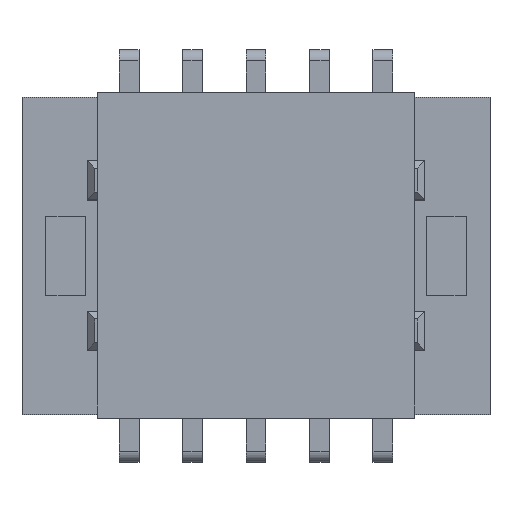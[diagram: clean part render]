
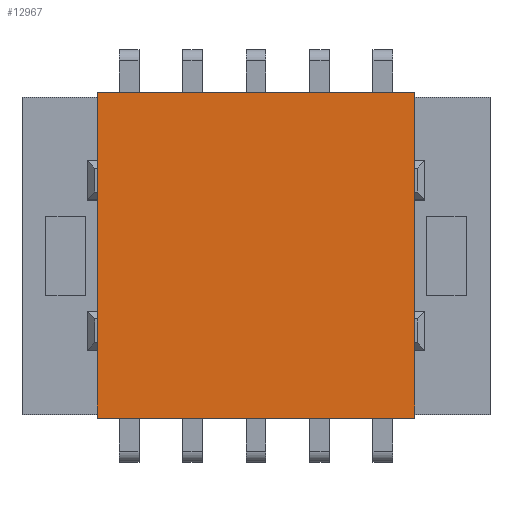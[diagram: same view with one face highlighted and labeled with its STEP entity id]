
A CAD part, top view. The second image highlights one B-rep face of the part: STEP entity #12967.
In plain terms, the highlighted planar face has unit normal (0, 0, 1).
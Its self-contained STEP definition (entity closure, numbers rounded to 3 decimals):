
#1437 = DIRECTION ( 'NONE',  ( 0., -1., 0. ) ) ;
#1597 = VERTEX_POINT ( 'NONE', #12555 ) ;
#3464 = VERTEX_POINT ( 'NONE', #18890 ) ;
#4167 = EDGE_CURVE ( 'NONE', #14257, #3464, #14919, .T. ) ;
#5885 = ORIENTED_EDGE ( 'NONE', *, *, #15903, .F. ) ;
#6460 = PLANE ( 'NONE',  #15563 ) ;
#6528 = VECTOR ( 'NONE', #1437, 1000. ) ;
#7211 = VECTOR ( 'NONE', #18937, 1000. ) ;
#7959 = CARTESIAN_POINT ( 'NONE',  ( 0., 0., 4.35 ) ) ;
#9358 = ORIENTED_EDGE ( 'NONE', *, *, #4167, .F. ) ;
#9821 = ORIENTED_EDGE ( 'NONE', *, *, #18708, .T. ) ;
#10476 = CARTESIAN_POINT ( 'NONE',  ( -4., -2.05, 4.35 ) ) ;
#11723 = DIRECTION ( 'NONE',  ( 0., -1., 0. ) ) ;
#12462 = EDGE_LOOP ( 'NONE', ( #9358, #12585, #9821, #5885 ) ) ;
#12555 = CARTESIAN_POINT ( 'NONE',  ( 0., -2.05, 4.35 ) ) ;
#12585 = ORIENTED_EDGE ( 'NONE', *, *, #19552, .T. ) ;
#12682 = VERTEX_POINT ( 'NONE', #10476 ) ;
#12693 = CARTESIAN_POINT ( 'NONE',  ( -4., 2.05, 4.35 ) ) ;
#12967 = ADVANCED_FACE ( 'NONE', ( #22165 ), #6460, .F. ) ;
#13221 = CARTESIAN_POINT ( 'NONE',  ( -2., -2.05, 4.35 ) ) ;
#13462 = DIRECTION ( 'NONE',  ( 0., -1., 0. ) ) ;
#14257 = VERTEX_POINT ( 'NONE', #12693 ) ;
#14919 = LINE ( 'NONE', #16409, #19981 ) ;
#15563 = AXIS2_PLACEMENT_3D ( 'NONE', #13221, #20458, #11723 ) ;
#15903 = EDGE_CURVE ( 'NONE', #3464, #1597, #18635, .T. ) ;
#16409 = CARTESIAN_POINT ( 'NONE',  ( -2., 2.05, 4.35 ) ) ;
#17051 = CARTESIAN_POINT ( 'NONE',  ( -4., 0., 4.35 ) ) ;
#17107 = CARTESIAN_POINT ( 'NONE',  ( -2., -2.05, 4.35 ) ) ;
#18467 = DIRECTION ( 'NONE',  ( 1., 0., 0. ) ) ;
#18635 = LINE ( 'NONE', #7959, #18824 ) ;
#18708 = EDGE_CURVE ( 'NONE', #12682, #1597, #22356, .T. ) ;
#18824 = VECTOR ( 'NONE', #13462, 1000. ) ;
#18890 = CARTESIAN_POINT ( 'NONE',  ( 0., 2.05, 4.35 ) ) ;
#18937 = DIRECTION ( 'NONE',  ( 1., 0., 0. ) ) ;
#19552 = EDGE_CURVE ( 'NONE', #14257, #12682, #22210, .T. ) ;
#19981 = VECTOR ( 'NONE', #18467, 1000. ) ;
#20458 = DIRECTION ( 'NONE',  ( 0., 0., -1. ) ) ;
#22165 = FACE_OUTER_BOUND ( 'NONE', #12462, .T. ) ;
#22210 = LINE ( 'NONE', #17051, #6528 ) ;
#22356 = LINE ( 'NONE', #17107, #7211 ) ;
